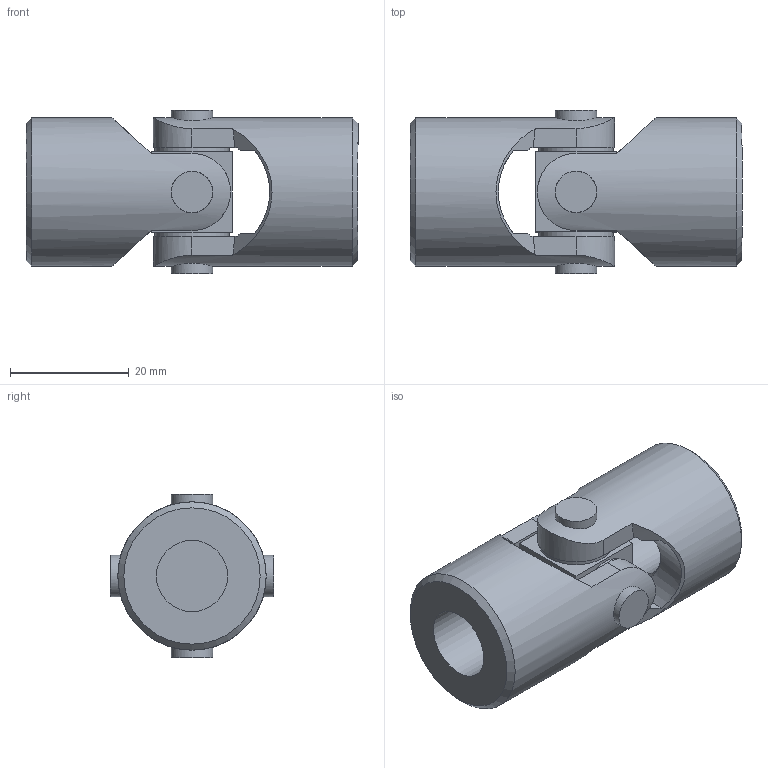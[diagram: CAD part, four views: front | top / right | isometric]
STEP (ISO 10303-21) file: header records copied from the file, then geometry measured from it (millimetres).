
FILE_DESCRIPTION(/* description */ ('EXTENSIBLE TRANSIMISSIONS Series G DIN 808 -2-'),/* implementation_level */ '2;1');
FILE_NAME(/* name */ '\\SRV2016\societa\Stefano\Disegni 3D\0Catalogo 3D\13Singoli X\Ø25_04X_SX0S1200.stp',/* time_stamp */ '2023-05-12T15:52:33+02:00',/* author */ ('acquisti'),/* organization */ ('MARIOFERRI'),/* preprocessor_version */ 'ST-DEVELOPER v15.6',/* originating_system */ 'Autodesk Inventor 2015',/* authorisation */ '');
FILE_SCHEMA (('AUTOMOTIVE_DESIGN { 1 0 10303 214 3 1 1 }'));
Length unit declared in the file: millimetre
Products named in the file (3): 04X SFE; 04X MOS; Ø25_04X_SX0S1200
Assembly tree (3 placements, depth 2):
  Ø25_04X_SX0S1200
    04X SFE
    04X MOS  x2
Bounding box: 56 x 27.5 x 27.5 mm (x, y, z)
Volume: 19048.8 mm3; surface area: 8673.4 mm2
Topology: 3 solids, 3 shells, 64 faces, 160 edges, 108 vertices
Faces by surface type: plane 32, cylinder 18, cone 12, torus 2
Full cylindrical faces by diameter (mm): 7 x4, 12 x2, 12.5 x4, 13 x2, 25 x2
Entity records: 1285 total; most frequent: CARTESIAN_POINT 412, DIRECTION 168, ORIENTED_EDGE 152, EDGE_CURVE 76, AXIS2_PLACEMENT_3D 72, EDGE_LOOP 58, VERTEX_POINT 58, FACE_OUTER_BOUND 39
